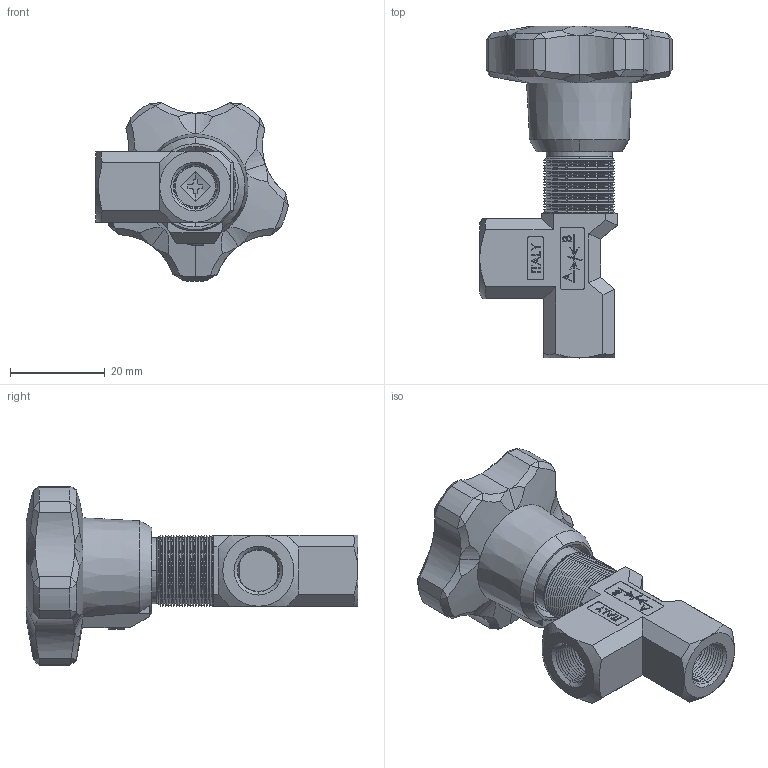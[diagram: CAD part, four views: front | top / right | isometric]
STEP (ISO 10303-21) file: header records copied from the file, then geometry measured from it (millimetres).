
FILE_DESCRIPTION (( 'STEP AP214' ), '1' );
FILE_NAME ('252-2-18 VOLANTINO ABS F-F.STEP', '2015-05-15T15:35:43', ( '' ), ( '' ), 'SwSTEP 2.0', 'SolidWorks 2014', '' );
FILE_SCHEMA (( 'AUTOMOTIVE_DESIGN' ));
Length unit declared in the file: millimetre
Products named in the file (1): 252-2-18 VOLANTINO ABS F-F
Bounding box: 40.62 x 70 x 37.74 mm (x, y, z)
Surface area: 8984.3 mm2 (no closed solid volume)
Topology: 0 solids, 24 shells, 547 faces, 1564 edges, 1002 vertices
Faces by surface type: plane 256, cone 164, cylinder 66, bspline 59, sphere 2
Entity records: 29457 total; most frequent: CARTESIAN_POINT 9843, ORIENTED_EDGE 2744, DIRECTION 2614, EDGE_CURVE 1564, VERTEX_POINT 1002, VECTOR 956, LINE 956, AXIS2_PLACEMENT_3D 829
